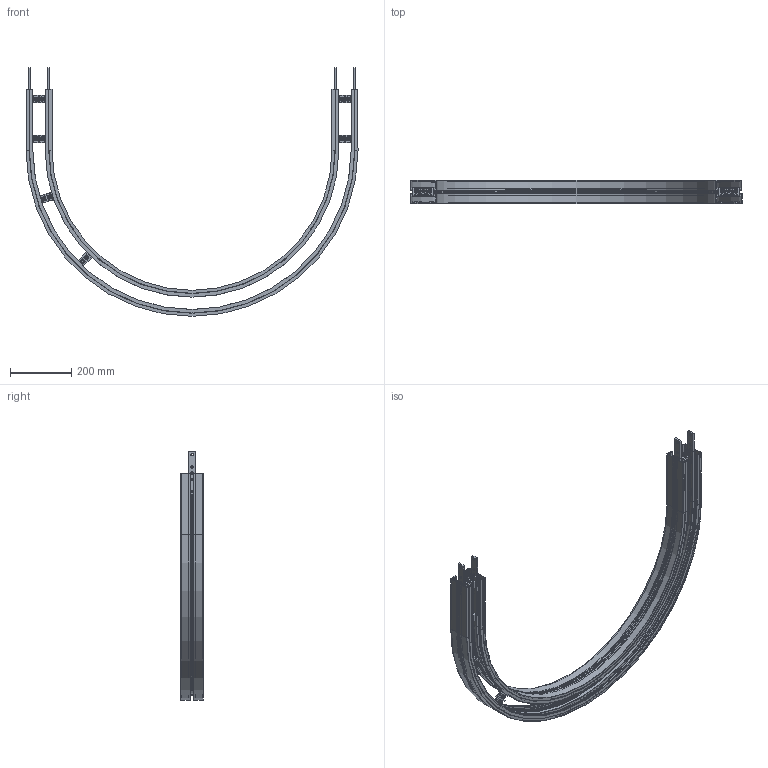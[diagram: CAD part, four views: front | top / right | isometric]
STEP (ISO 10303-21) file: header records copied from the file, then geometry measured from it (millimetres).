
FILE_DESCRIPTION (( 'STEP AP214' ), '1' );
FILE_NAME ('FMHB-180R500.STEP', '2012-04-03T13:10:52', ( 'gs' ), ( 'Microsoft' ), 'SwSTEP 2.0', 'SolidWorks 2011', '' );
FILE_SCHEMA (( 'AUTOMOTIVE_DESIGN' ));
Length unit declared in the file: millimetre
Products named in the file (8): Ecrou bague frein; Clamp Flex_FMHB - CLP; vis CHC  lg23 ; FASR-25 U. FMSLDPRT_180R500; FACS-25.éclisse larg 25mm_Default; FMHB R500_180R500; FMHB-180R500; Clamp_FM
Assembly tree (19 placements, depth 3):
  FMHB-180R500
    Clamp Flex_FMHB - CLP  x6
      Clamp_FM
      Ecrou bague frein
      vis CHC  lg23 
    FASR-25 U. FMSLDPRT_180R500  x2
    FMHB R500_180R500
    FACS-25.éclisse larg 25mm_Default  x4
Bounding box: 1085 x 76.99 x 812.5 mm (x, y, z)
Volume: 1964204.4 mm3; surface area: 2029877.9 mm2
Topology: 50 solids, 50 shells, 2223 faces, 5477 edges, 3150 vertices
Faces by surface type: plane 892, cylinder 768, sphere 168, torus 161, bspline 144, cone 90
Entity records: 20205 total; most frequent: CARTESIAN_POINT 3716, DIRECTION 3403, ORIENTED_EDGE 3288, EDGE_CURVE 1644, AXIS2_PLACEMENT_3D 1142, VECTOR 1119, LINE 1119, VERTEX_POINT 1047
